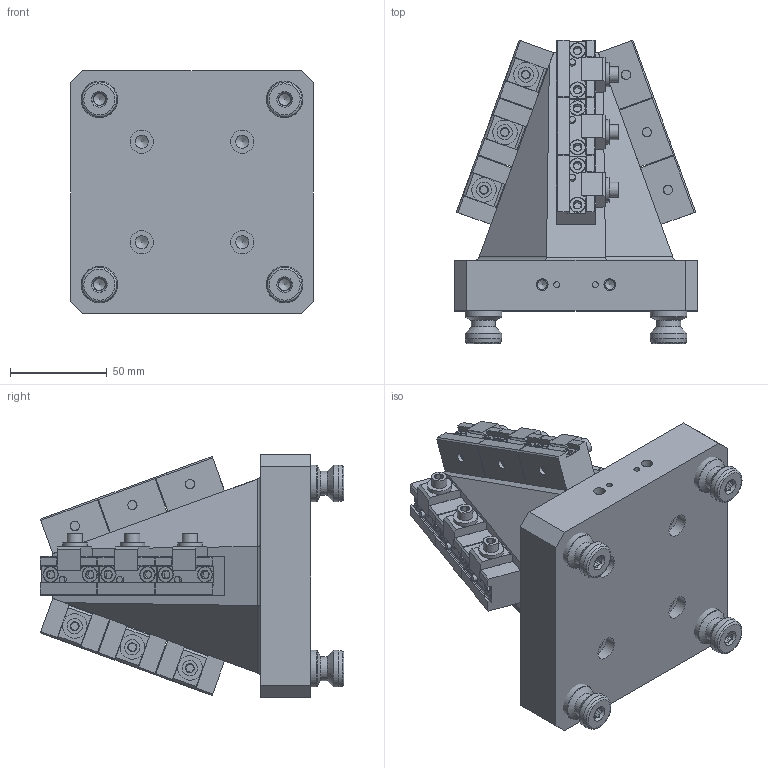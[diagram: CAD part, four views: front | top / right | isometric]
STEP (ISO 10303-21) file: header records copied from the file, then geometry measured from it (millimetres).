
FILE_DESCRIPTION (( 'STEP AP214' ), '1' );
FILE_NAME ('A96-P12D05125_WEBSITE.STEP', '2025-08-11T13:25:20', ( '' ), ( '' ), 'SwSTEP 2.0', 'SolidWorks 2025', '' );
FILE_SCHEMA (( 'AUTOMOTIVE_DESIGN' ));
Length unit declared in the file: inch
Products named in the file (14): D_D05125-1_WEBSITE_D051251WM-1; D_HW.0125X0375.DP_WEBSITE_DEFAULT; D_HW.73040_WEBSITE_HW.73040; D_D05125_WEBSITE; D_CLW10_WEBSITE_CLW10; D_AU-P12D05125-1_WEBSITE; D_HW.0236X0256.CS_WEBSITE; D_HW.0203X0500.FW_WEBSITE_DEFAULT; D_PS20F_WEBSITE_HARD TURN; D_HW.0125X0250.DP_WEBSITE_DEFAULT; D_PS20F_WEBSITE; D_M10-1.5 X 25mm.Set Screw_WEBSITE; A96-P12D05125_WEBSITE; D_HW.73044_WEBSITE_HW.73044
Assembly tree (29 placements, depth 3):
  A96-P12D05125_WEBSITE
    D_AU-P12D05125-1_WEBSITE
    D_PS20F_WEBSITE  x4
      D_PS20F_WEBSITE_HARD TURN
      D_M10-1.5 X 25mm.Set Screw_WEBSITE
    D_D05125_WEBSITE  x12
      D_D05125-1_WEBSITE_D051251WM-1
      D_CLW10_WEBSITE_CLW10
      D_HW.0203X0500.FW_WEBSITE_DEFAULT
      D_HW.0125X0375.DP_WEBSITE_DEFAULT
      D_HW.0125X0250.DP_WEBSITE_DEFAULT
      D_HW.0236X0256.CS_WEBSITE
      D_HW.73044_WEBSITE_HW.73044
      D_HW.73040_WEBSITE_HW.73040
Bounding box: 125.73 x 157.28 x 125.73 mm (x, y, z)
Volume: 955121.4 mm3; surface area: 185398.3 mm2
Topology: 129 solids, 129 shells, 2005 faces, 4315 edges, 2686 vertices
Faces by surface type: plane 1160, cylinder 429, cone 376, torus 28, bspline 12
Full cylindrical faces by diameter (mm): 3.03 x4, 3.175 x72, 3.2 x40, 3.3 x2, 4 x2, 4.039 x40, 4.826 x48, 4.978 x24, 5 x2, 5.159 x12, 5.182 x12, 6 x2, 6.147 x4, 6.35 x12, 6.8 x4, 7.925 x36, 8 x4, 8.5 x8, 8.509 x24, 10 x4, 12.017 x4, 12.497 x4, 12.7 x12, 15.24 x1, 16.02 x4, 16.297 x4, 19.012 x8, 20.277 x4
Entity records: 11521 total; most frequent: CARTESIAN_POINT 2336, DIRECTION 1768, ORIENTED_EDGE 1206, AXIS2_PLACEMENT_3D 770, EDGE_LOOP 706, EDGE_CURVE 603, FACE_OUTER_BOUND 557, VERTEX_POINT 483
